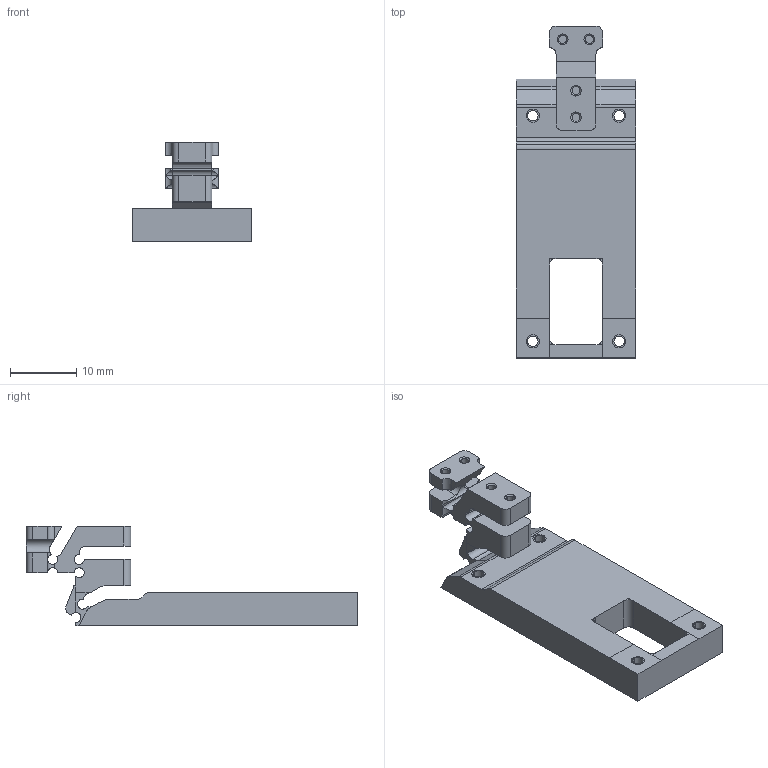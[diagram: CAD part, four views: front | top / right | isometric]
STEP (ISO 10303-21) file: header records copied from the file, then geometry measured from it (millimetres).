
FILE_DESCRIPTION(/* description */ ('VariCAD 2010-3.03 AP-214'),/* implementation_level */ '2;1');
FILE_NAME(/* name */ '0353-19-48',/* time_stamp */ '2011-01-17T15:11:47-07:00',/* author */ (''),/* organization */ (''),/* preprocessor_version */ 'ST-DEVELOPER v12',/* originating_system */ 'VariCAD 2010-3.03; kernel version (20100102)',/* authorisation */ '');
FILE_SCHEMA (('AUTOMOTIVE_DESIGN'));
Length unit declared in the file: millimetre
Products named in the file (1): Part
Bounding box: 18 x 50 x 15 mm (x, y, z)
Volume: 3584.3 mm3; surface area: 3268.4 mm2
Topology: 9 solids, 9 shells, 184 faces, 489 edges, 311 vertices
Faces by surface type: cylinder 99, plane 69, cone 16
Entity records: 7367 total; most frequent: CARTESIAN_POINT 1208, DIRECTION 1047, ORIENTED_EDGE 978, EDGE_CURVE 489, AXIS2_PLACEMENT_3D 386, VERTEX_POINT 311, LINE 275, VECTOR 275
